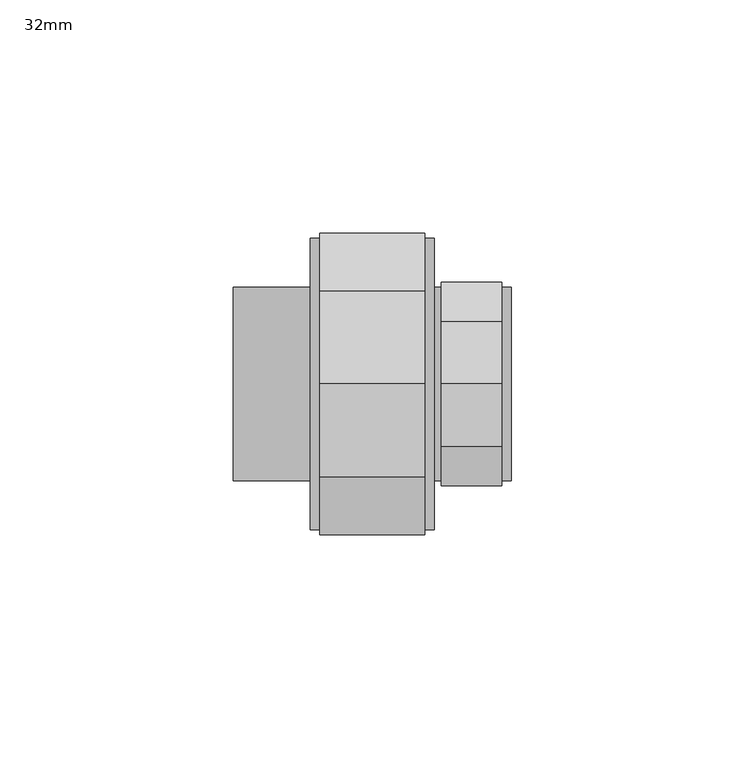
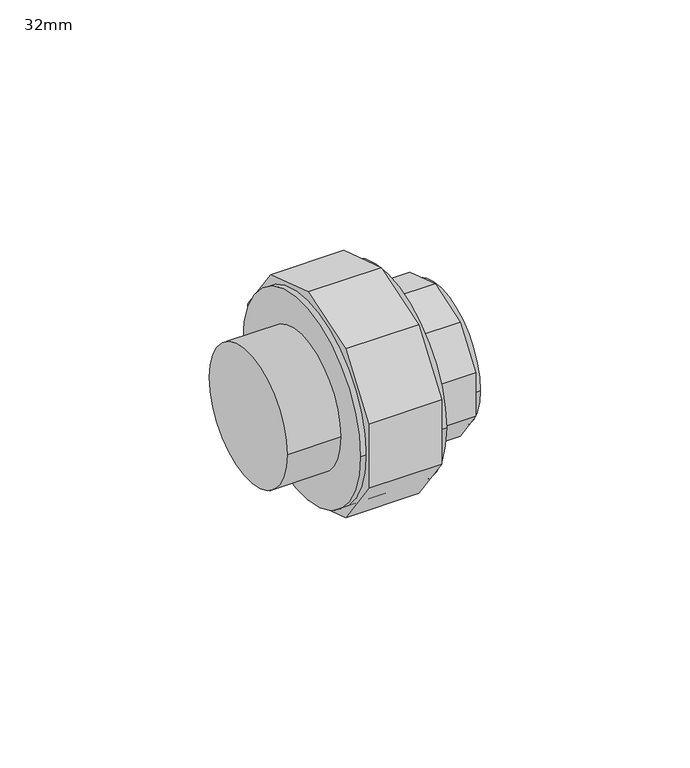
"""IFC4 building model written with IfcOpenShell, lengths in millimetres: pipe fitting geometry, PipeFitting_HTA_CPVC_3PieceUnions_CPVC : 32mm."""

from ifc_helpers import new_model, si_unit, point, frame, origin, origin_2d, place, context, project, spatial, polyline, circle_curve, trimmed, segment, composite_curve, outline, extrude, source, transform, mapped, element, save


def pipe_fitting_32mm_dbaa466c(model_context):
    return source(origin(), model_context, "Body", "SweptSolid", [
        extrude(outline(polyline([(13.4422393, 18.5016551), (21.75, 7.0670034), (21.75, -7.0670034), (13.4422393, -18.5016551), (0.0, -22.8693034), (-13.4422393, -18.5016551), (-21.75, -7.0670034), (-21.75, 7.0670034), (-13.4422393, 18.5016551), (0.0, 22.8693034), (13.4422393, 18.5016551)])), frame((14.75, 0.0, 0.0), z_axis=(1.0, 0.0, 0.0), x_axis=(0.0, 1.0, 0.0)), (0.0, 0.0, 1.0), 13.0),
        extrude(outline(composite_curve([segment(trimmed(circle_curve(origin_2d(), 20.75), [point((-20.75, 0.0))], [point((20.75, 0.0))], False, "CARTESIAN"), True, "CONTINUOUS"), segment(trimmed(circle_curve(origin_2d(), 20.75), [point((20.75, 0.0))], [point((-20.75, 0.0))], False, "CARTESIAN"), True, "CONTINUOUS")], self_intersect=False)), frame((7.25, 0.0, 0.0), z_axis=(1.0, 0.0, 0.0), x_axis=(0.0, 1.0, 0.0)), (0.0, 0.0, 1.0), 22.5),
        extrude(outline(composite_curve([segment(trimmed(circle_curve(origin_2d(), 20.75), [point((-20.75, 0.0))], [point((20.75, 0.0))], False, "CARTESIAN"), True, "CONTINUOUS"), segment(trimmed(circle_curve(origin_2d(), 20.75), [point((20.75, 0.0))], [point((-20.75, 0.0))], False, "CARTESIAN"), True, "CONTINUOUS")], self_intersect=False)), frame((-29.75, 0.0, 0.0), z_axis=(1.0, 0.0, 0.0), x_axis=(0.0, 1.0, 0.0)), (0.0, 0.0, 1.0), 16.5),
        extrude(outline(polyline([(19.9315961, 27.4334886), (32.25, 10.4786602), (32.25, -10.4786602), (19.9315961, -27.4334886), (0.0, -33.9096567), (-19.9315961, -27.4334886), (-32.25, -10.4786602), (-32.25, 10.4786602), (-19.9315961, 27.4334886), (0.0, 33.9096567), (19.9315961, 27.4334886)])), frame((-11.25, 0.0, 0.0), z_axis=(1.0, 0.0, 0.0), x_axis=(0.0, 1.0, 0.0)), (0.0, 0.0, 1.0), 22.5),
        extrude(outline(composite_curve([segment(trimmed(circle_curve(origin_2d(), 31.25), [point((-31.25, 0.0))], [point((31.25, 0.0))], False, "CARTESIAN"), True, "CONTINUOUS"), segment(trimmed(circle_curve(origin_2d(), 31.25), [point((31.25, 0.0))], [point((-31.25, 0.0))], False, "CARTESIAN"), True, "CONTINUOUS")], self_intersect=False)), frame((-13.25, 0.0, 0.0), z_axis=(1.0, 0.0, 0.0), x_axis=(0.0, 1.0, 0.0)), (0.0, 0.0, 1.0), 26.5),
    ])


if __name__ == "__main__":
    model = new_model("IFC4")
    model_context = context("Model", 3, world=origin())
    ifc_project = project(units=[si_unit("LENGTHUNIT", "METRE", prefix="MILLI")], contexts=[model_context])
    site = spatial("IfcSite", under=ifc_project)
    building = spatial("IfcBuilding", under=site)
    placement = place(None, origin())
    pipe_fitting_32mm_shape = pipe_fitting_32mm_dbaa466c(model_context)
    element("IfcPipeFitting", 1, ObjectType="PipeFitting_HTA_CPVC_3PieceUnions_CPVC : 32mm", at=placement, inside=building, context=model_context, shape_type="MappedRepresentation", body=[
        mapped(pipe_fitting_32mm_shape, transform((0.0, 0.0, 0.0), x_axis=(1.0, 0.0, 0.0), y_axis=(0.0, 1.0, 0.0), z_axis=(0.0, 0.0, 1.0))),
    ])
    save(model, "model.ifc")
